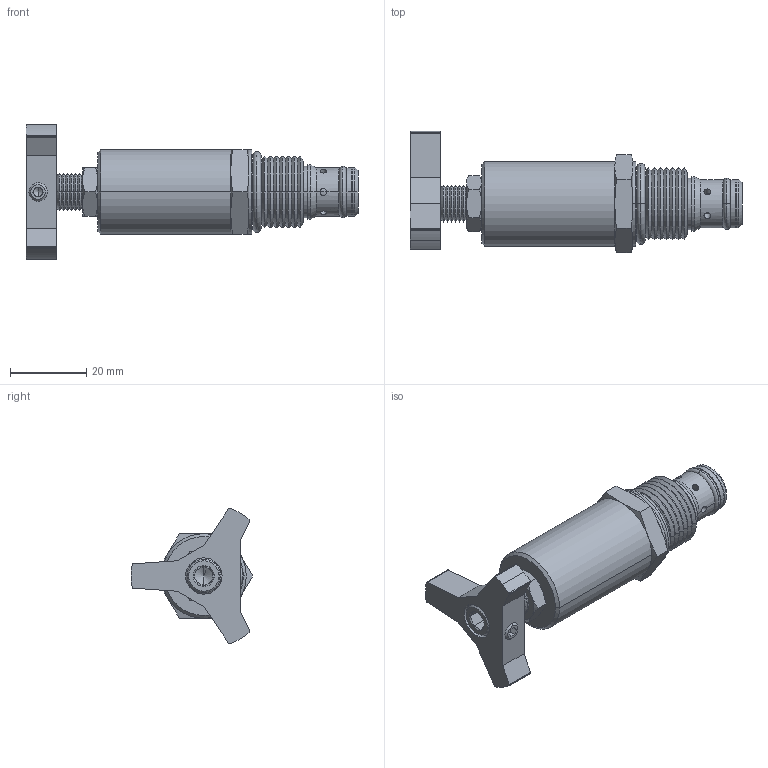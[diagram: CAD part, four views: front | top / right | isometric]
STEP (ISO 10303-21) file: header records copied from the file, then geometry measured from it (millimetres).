
FILE_DESCRIPTION((''),'2;1');
FILE_NAME('U:\Solid model CD\Solid model full\Mechanical\STEP\PBRVD0K-3D Full.stp','2008-07-29T09:53:13',('Dan'),(''),'Autodesk Inventor 9','Autodesk Inventor 9','');
FILE_SCHEMA(('AUTOMOTIVE_DESIGN { 1 0 10303 214 1 1 1 1 }'));
Length unit declared in the file: inch
Products named in the file (7): PBRVD0K-3D Full; PBRVD0K-3D Full1; PBRVD0K-3D Full2; PBRVD0K-3D Full3; PBRVD0K-3D Full4; PBRVD0K-3D Full5; PBRVD0K-3D Full6
Assembly tree (6 placements, depth 2):
  PBRVD0K-3D Full
    PBRVD0K-3D Full1
    PBRVD0K-3D Full2
    PBRVD0K-3D Full3
    PBRVD0K-3D Full4
    PBRVD0K-3D Full5
    PBRVD0K-3D Full6
Bounding box: 87.1 x 31.88 x 35.54 mm (x, y, z)
Volume: 25491.1 mm3; surface area: 9519.1 mm2
Topology: 6 solids, 6 shells, 329 faces, 731 edges, 414 vertices
Faces by surface type: cone 182, plane 73, cylinder 66, torus 8
Entity records: 9435 total; most frequent: CARTESIAN_POINT 2105, DIRECTION 1599, ORIENTED_EDGE 1454, EDGE_CURVE 727, AXIS2_PLACEMENT_3D 654, VERTEX_POINT 414, EDGE_LOOP 357, FACE_OUTER_BOUND 329
